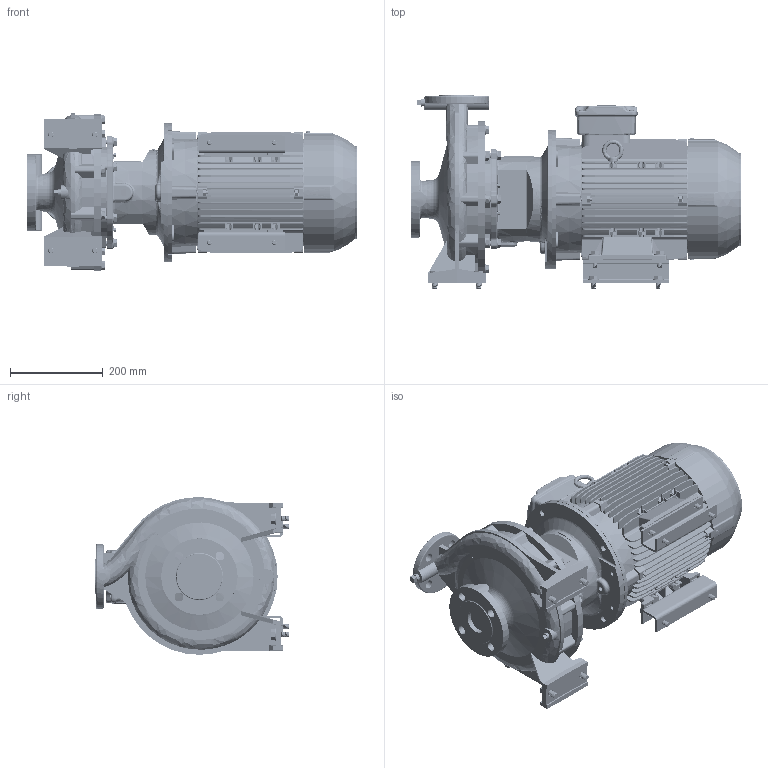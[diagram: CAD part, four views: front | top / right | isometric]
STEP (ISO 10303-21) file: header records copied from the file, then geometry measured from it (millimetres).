
FILE_DESCRIPTION (( 'STEP AP214' ), '1' );
FILE_NAME ('GSD2 32-250_7.5_(132S)_W21.STEP', '2026-07-02T05:07:27', ( '' ), ( '' ), 'SwSTEP 2.0', 'SolidWorks 2024', '' );
FILE_SCHEMA (( 'AUTOMOTIVE_DESIGN' ));
Length unit declared in the file: millimetre
Products named in the file (12): 32-250-132S; Parametric Flat Washer_M10; Parametric bolt_SFT-A249B; Parametric bolt_SFT-A253B; GSD2  32-250_7.5_(132S)_W21; 132S ALIE3_W21T_B35; Parametric bolt and washer_SFT-A299B; Parametric bolt and washer_SFT-A249B; Parametric bolt_SFT-A299B; Parametric bolt and washer_SFT-A253B; Parametric Flat Washer_M12; 140 x 48 - 271472022
Assembly tree (22 placements, depth 3):
  GSD2  32-250_7.5_(132S)_W21
    32-250-132S
    140 x 48 - 271472022  x2
    Parametric bolt and washer_SFT-A299B  x4
      Parametric bolt_SFT-A299B
      Parametric Flat Washer_M12
    Parametric bolt and washer_SFT-A249B  x4
      Parametric bolt_SFT-A249B
      Parametric Flat Washer_M10
    Parametric bolt and washer_SFT-A253B  x4
      Parametric bolt_SFT-A253B
      Parametric Flat Washer_M10
    132S ALIE3_W21T_B35
Bounding box: 714.8 x 418 x 340.5 mm (x, y, z)
Volume: 29750472.1 mm3; surface area: 2024766.7 mm2
Topology: 45 solids, 45 shells, 5151 faces, 13397 edges, 8697 vertices
Faces by surface type: plane 3023, cylinder 1230, torus 304, cone 290, bspline 272, sphere 32
Entity records: 173691 total; most frequent: CARTESIAN_POINT 61640, ORIENTED_EDGE 24048, DIRECTION 21848, EDGE_CURVE 12024, LINE 7906, VECTOR 7906, VERTEX_POINT 7817, AXIS2_PLACEMENT_3D 6971
